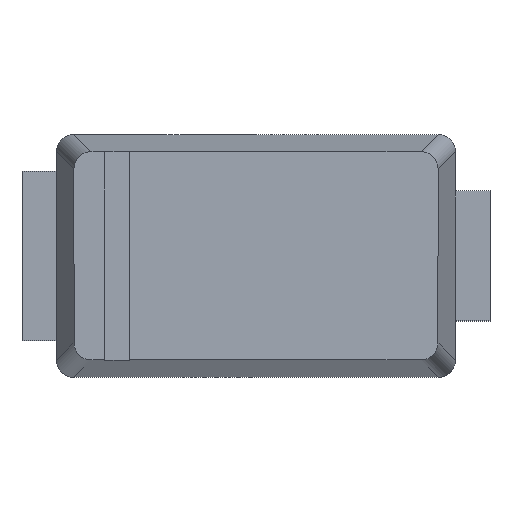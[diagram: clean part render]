
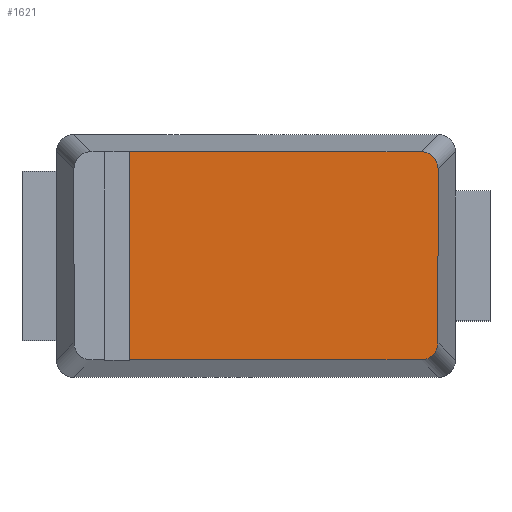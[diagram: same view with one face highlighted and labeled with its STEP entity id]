
A CAD part, top view. The second image highlights one B-rep face of the part: STEP entity #1621.
In plain terms, the highlighted planar face has unit normal (0, 0, 1).
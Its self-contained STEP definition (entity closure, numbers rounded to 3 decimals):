
#63 = VERTEX_POINT ( 'NONE', #1782 ) ;
#90 = EDGE_CURVE ( 'NONE', #739, #63, #1563, .T. ) ;
#118 = CARTESIAN_POINT ( 'NONE',  ( 1.01, -0.6, 0.73 ) ) ;
#130 = EDGE_CURVE ( 'NONE', #63, #902, #418, .T. ) ;
#230 = CARTESIAN_POINT ( 'NONE',  ( 1.05, 0.502, 0.73 ) ) ;
#245 = VECTOR ( 'NONE', #996, 1000. ) ;
#309 = EDGE_CURVE ( 'NONE', #1472, #1055, #342, .T. ) ;
#342 = LINE ( 'NONE', #1632, #2068 ) ;
#418 = LINE ( 'NONE', #1222, #1274 ) ;
#421 = VERTEX_POINT ( 'NONE', #894 ) ;
#450 = CARTESIAN_POINT ( 'NONE',  ( 0.952, -0.6, 0.73 ) ) ;
#570 = DIRECTION ( 'NONE',  ( -1., 0., 0. ) ) ;
#599 = VECTOR ( 'NONE', #1069, 1000. ) ;
#653 = CARTESIAN_POINT ( 'NONE',  ( 1.05, -0.56, 0.73 ) ) ;
#675 = DIRECTION ( 'NONE',  ( -1., 0., 0. ) ) ;
#717 = DIRECTION ( 'NONE',  ( 0., 0., 1. ) ) ;
#739 = VERTEX_POINT ( 'NONE', #1729 ) ;
#824 = CARTESIAN_POINT ( 'NONE',  ( 0.952, -0.6, 0.73 ) ) ;
#894 = CARTESIAN_POINT ( 'NONE',  ( 1.05, -0.502, 0.73 ) ) ;
#898 = EDGE_CURVE ( 'NONE', #421, #739, #1660, .T. ) ;
#902 = VERTEX_POINT ( 'NONE', #1191 ) ;
#903 = CARTESIAN_POINT ( 'NONE',  ( -0.73, 0., 0.73 ) ) ;
#929 = ORIENTED_EDGE ( 'NONE', *, *, #90, .T. ) ;
#996 = DIRECTION ( 'NONE',  ( 0., 1., 0. ) ) ;
#1040 = CARTESIAN_POINT ( 'NONE',  ( -0.73, -0.6, 0.73 ) ) ;
#1055 = VERTEX_POINT ( 'NONE', #1040 ) ;
#1069 = DIRECTION ( 'NONE',  ( 0., -1., 0. ) ) ;
#1089 = ORIENTED_EDGE ( 'NONE', *, *, #1333, .T. ) ;
#1151 = EDGE_CURVE ( 'NONE', #902, #1055, #1687, .T. ) ;
#1191 = CARTESIAN_POINT ( 'NONE',  ( -0.73, 0.6, 0.73 ) ) ;
#1222 = CARTESIAN_POINT ( 'NONE',  ( 0., 0.6, 0.73 ) ) ;
#1231 = FACE_OUTER_BOUND ( 'NONE', #1995, .T. ) ;
#1241 = AXIS2_PLACEMENT_3D ( 'NONE', #1537, #717, #1386 ) ;
#1274 = VECTOR ( 'NONE', #570, 1000. ) ;
#1281 = CARTESIAN_POINT ( 'NONE',  ( 1.05, -0.502, 0.73 ) ) ;
#1333 = EDGE_CURVE ( 'NONE', #1472, #421, #1921, .T. ) ;
#1364 = ORIENTED_EDGE ( 'NONE', *, *, #898, .T. ) ;
#1386 = DIRECTION ( 'NONE',  ( 1., 0., 0. ) ) ;
#1434 = ORIENTED_EDGE ( 'NONE', *, *, #1151, .T. ) ;
#1472 = VERTEX_POINT ( 'NONE', #824 ) ;
#1522 = ORIENTED_EDGE ( 'NONE', *, *, #130, .T. ) ;
#1537 = CARTESIAN_POINT ( 'NONE',  ( 0., 0., 0.73 ) ) ;
#1563 =( BOUNDED_CURVE ( )  B_SPLINE_CURVE ( 3, ( #230, #1852, #1724, #1840 ),
 .UNSPECIFIED., .F., .T. ) 
 B_SPLINE_CURVE_WITH_KNOTS ( ( 4, 4 ),
 ( 2.379, 3.904 ),
 .UNSPECIFIED. ) 
 CURVE ( )  GEOMETRIC_REPRESENTATION_ITEM ( )  RATIONAL_B_SPLINE_CURVE ( ( 1., 0.815, 0.815, 1. ) ) 
 REPRESENTATION_ITEM ( '' )  );
#1621 = ADVANCED_FACE ( 'NONE', ( #1231 ), #1851, .T. ) ;
#1632 = CARTESIAN_POINT ( 'NONE',  ( -1.15, -0.6, 0.73 ) ) ;
#1657 = CARTESIAN_POINT ( 'NONE',  ( 1.05, 0., 0.73 ) ) ;
#1660 = LINE ( 'NONE', #1657, #245 ) ;
#1687 = LINE ( 'NONE', #903, #599 ) ;
#1724 = CARTESIAN_POINT ( 'NONE',  ( 1.01, 0.6, 0.73 ) ) ;
#1729 = CARTESIAN_POINT ( 'NONE',  ( 1.05, 0.502, 0.73 ) ) ;
#1782 = CARTESIAN_POINT ( 'NONE',  ( 0.952, 0.6, 0.73 ) ) ;
#1840 = CARTESIAN_POINT ( 'NONE',  ( 0.952, 0.6, 0.73 ) ) ;
#1851 = PLANE ( 'NONE',  #1241 ) ;
#1852 = CARTESIAN_POINT ( 'NONE',  ( 1.05, 0.56, 0.73 ) ) ;
#1921 =( BOUNDED_CURVE ( )  B_SPLINE_CURVE ( 3, ( #450, #118, #653, #1281 ),
 .UNSPECIFIED., .F., .T. ) 
 B_SPLINE_CURVE_WITH_KNOTS ( ( 4, 4 ),
 ( 2.379, 3.904 ),
 .UNSPECIFIED. ) 
 CURVE ( )  GEOMETRIC_REPRESENTATION_ITEM ( )  RATIONAL_B_SPLINE_CURVE ( ( 1., 0.815, 0.815, 1. ) ) 
 REPRESENTATION_ITEM ( '' )  );
#1952 = ORIENTED_EDGE ( 'NONE', *, *, #309, .F. ) ;
#1995 = EDGE_LOOP ( 'NONE', ( #929, #1522, #1434, #1952, #1089, #1364 ) ) ;
#2068 = VECTOR ( 'NONE', #675, 1000. ) ;
